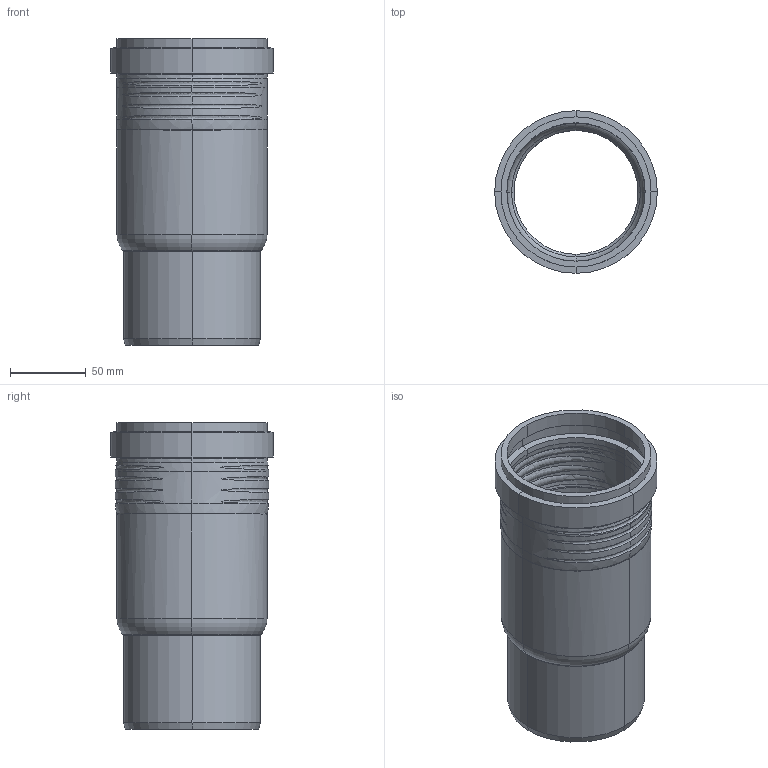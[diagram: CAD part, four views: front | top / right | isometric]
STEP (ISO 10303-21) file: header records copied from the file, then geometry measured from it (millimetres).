
FILE_DESCRIPTION(/* description */ (''),/* implementation_level */ '2;1');
FILE_NAME(/* name */ 'H:\Geberit-Teile\Export\Langmuffe PP\stp\393418.stp',/* time_stamp */ '2017-10-18T09:55:45+02:00',/* author */ ('seihe2'),/* organization */ (''),/* preprocessor_version */ 'ST-DEVELOPER v15.2',/* originating_system */ 'Autodesk Inventor 2014',/* authorisation */ '');
FILE_SCHEMA (('AUTOMOTIVE_DESIGN { 1 0 10303 214 3 1 1 }'));
Length unit declared in the file: millimetre
Products named in the file (1): 393418
Bounding box: 107 x 107 x 202 mm (x, y, z)
Volume: 245354.2 mm3; surface area: 125811.6 mm2
Topology: 1 solids, 1 shells, 154 faces, 351 edges, 187 vertices
Faces by surface type: bspline 64, cylinder 36, cone 28, torus 22, plane 4
Entity records: 8785 total; most frequent: CARTESIAN_POINT 5532, ORIENTED_EDGE 678, DIRECTION 594, EDGE_CURVE 339, AXIS2_PLACEMENT_3D 240, VERTEX_POINT 187, EDGE_LOOP 156, STYLED_ITEM 155
